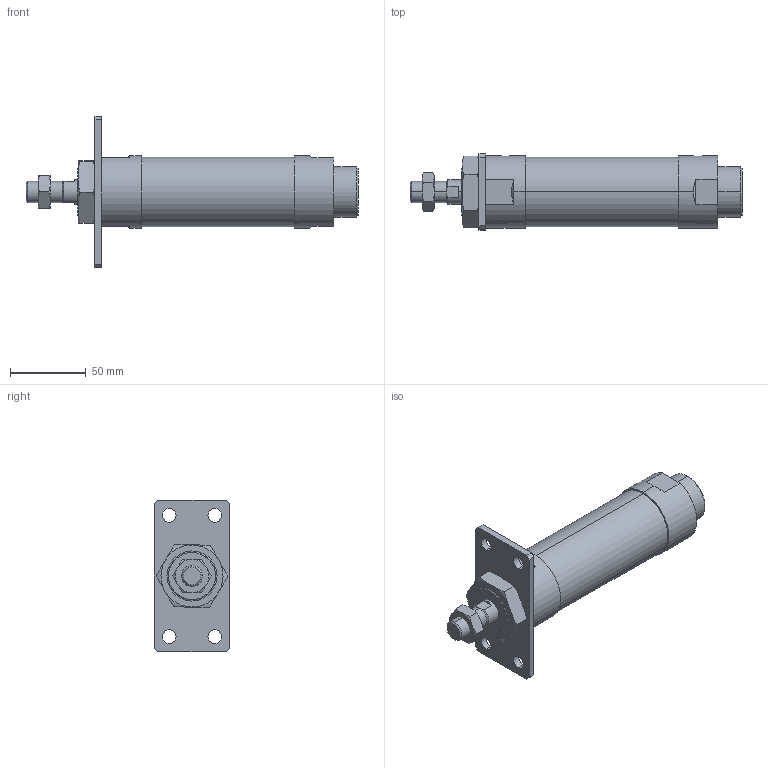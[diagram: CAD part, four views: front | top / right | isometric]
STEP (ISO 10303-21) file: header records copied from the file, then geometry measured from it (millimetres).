
FILE_DESCRIPTION (( 'STEP AP203' ), '1' );
FILE_NAME ('J#2-40-50-A.STEP', '2016-03-08T07:53:17', ( '' ), ( '' ), 'SwSTEP 2.0', 'SolidWorks 2014', '' );
FILE_SCHEMA (( 'CONFIG_CONTROL_DESIGN' ));
Length unit declared in the file: millimetre
Products named in the file (5): J#2-40-50-A; J#2-40-50; J#2-40-A
Assembly tree (4 placements, depth 2):
  J#2-40-50-A
    J#2-40-50
    (unnamed)
    (unnamed)
    J#2-40-A
Bounding box: 219 x 50 x 100 mm (x, y, z)
Volume: 318364.1 mm3; surface area: 47716.4 mm2
Topology: 4 solids, 4 shells, 114 faces, 264 edges, 161 vertices
Faces by surface type: plane 43, cylinder 32, torus 24, cone 15
Entity records: 4198 total; most frequent: CARTESIAN_POINT 1133, DIRECTION 537, ORIENTED_EDGE 520, EDGE_CURVE 260, AXIS2_PLACEMENT_3D 219, VERTEX_POINT 161, EDGE_LOOP 135, FACE_OUTER_BOUND 114
